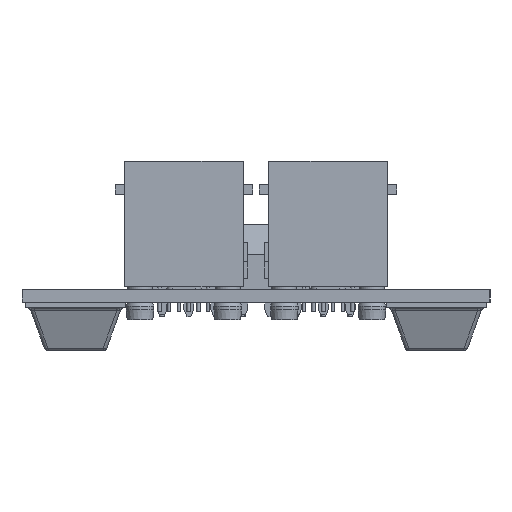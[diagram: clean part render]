
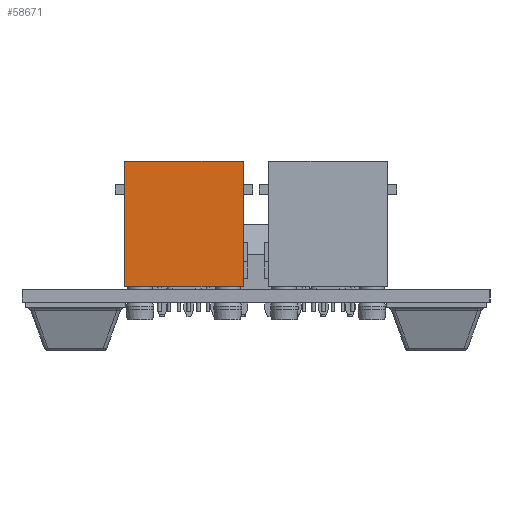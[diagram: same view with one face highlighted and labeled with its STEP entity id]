
A CAD part, left-side view. The second image highlights one B-rep face of the part: STEP entity #58671.
In plain terms, the highlighted planar face has unit normal (-1, 0, 0) as drawn and (0, 0, 1) by its records, which use the part's own axes.
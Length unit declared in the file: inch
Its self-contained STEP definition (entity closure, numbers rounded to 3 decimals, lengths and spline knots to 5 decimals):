
#1725 = VECTOR ( 'NONE', #31362, 39.37008 ) ;
#1904 = DIRECTION ( 'NONE',  ( 0., -1., 0. ) ) ;
#1965 = ORIENTED_EDGE ( 'NONE', *, *, #37251, .T. ) ;
#1992 = VECTOR ( 'NONE', #44107, 39.37008 ) ;
#2083 = LINE ( 'NONE', #15244, #34008 ) ;
#3752 = ORIENTED_EDGE ( 'NONE', *, *, #53156, .F. ) ;
#7423 = CARTESIAN_POINT ( 'NONE',  ( -0.61024, 0.64488, 0. ) ) ;
#13032 = DIRECTION ( 'NONE',  ( 1., 0., 0. ) ) ;
#13398 = CARTESIAN_POINT ( 'NONE',  ( -0.61024, 0.64488, 0. ) ) ;
#15244 = CARTESIAN_POINT ( 'NONE',  ( 0., 0.64488, 0. ) ) ;
#15703 = DIRECTION ( 'NONE',  ( 0., -1., 0. ) ) ;
#18144 = CARTESIAN_POINT ( 'NONE',  ( -0.61024, 0.64488, 0. ) ) ;
#18780 = VERTEX_POINT ( 'NONE', #42653 ) ;
#20590 = VERTEX_POINT ( 'NONE', #7423 ) ;
#28908 = DIRECTION ( 'NONE',  ( 0., 0., 1. ) ) ;
#29423 = LINE ( 'NONE', #63611, #1725 ) ;
#30943 = CARTESIAN_POINT ( 'NONE',  ( 0., 0., 0. ) ) ;
#31362 = DIRECTION ( 'NONE',  ( 1., 0., 0. ) ) ;
#31398 = LINE ( 'NONE', #35069, #69336 ) ;
#32154 = AXIS2_PLACEMENT_3D ( 'NONE', #18144, #28908, #1904 ) ;
#33240 = FACE_OUTER_BOUND ( 'NONE', #64588, .T. ) ;
#34008 = VECTOR ( 'NONE', #15703, 39.37008 ) ;
#35069 = CARTESIAN_POINT ( 'NONE',  ( -0.61024, 0.64488, 0. ) ) ;
#35582 = LINE ( 'NONE', #13398, #1992 ) ;
#37251 = EDGE_CURVE ( 'NONE', #20590, #56388, #35582, .T. ) ;
#38420 = ORIENTED_EDGE ( 'NONE', *, *, #65627, .F. ) ;
#39513 = VERTEX_POINT ( 'NONE', #30943 ) ;
#40973 = EDGE_CURVE ( 'NONE', #56388, #39513, #29423, .T. ) ;
#42653 = CARTESIAN_POINT ( 'NONE',  ( 0., 0.64488, 0. ) ) ;
#44107 = DIRECTION ( 'NONE',  ( 0., -1., 0. ) ) ;
#45541 = PLANE ( 'NONE',  #32154 ) ;
#53156 = EDGE_CURVE ( 'NONE', #18780, #39513, #2083, .T. ) ;
#56388 = VERTEX_POINT ( 'NONE', #58033 ) ;
#58033 = CARTESIAN_POINT ( 'NONE',  ( -0.61024, 0., 0. ) ) ;
#58671 = ADVANCED_FACE ( 'NONE', ( #33240 ), #45541, .T. ) ;
#63611 = CARTESIAN_POINT ( 'NONE',  ( -0.61024, 0., 0. ) ) ;
#64588 = EDGE_LOOP ( 'NONE', ( #3752, #38420, #1965, #66109 ) ) ;
#65627 = EDGE_CURVE ( 'NONE', #20590, #18780, #31398, .T. ) ;
#66109 = ORIENTED_EDGE ( 'NONE', *, *, #40973, .T. ) ;
#69336 = VECTOR ( 'NONE', #13032, 39.37008 ) ;
